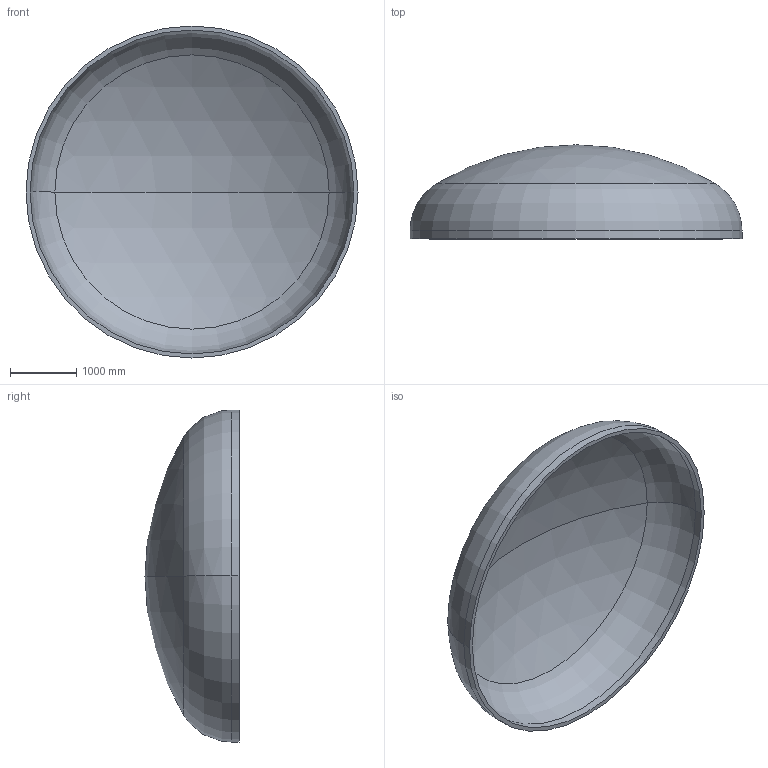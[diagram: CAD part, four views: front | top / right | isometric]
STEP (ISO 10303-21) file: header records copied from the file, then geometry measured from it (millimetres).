
FILE_DESCRIPTION (( 'STEP AP203' ), '1' );
FILE_NAME ('DIN 28013 Korbbogenform_-_Boden DIN 28013 - 5000 x 120 - I - s=62.step', '2016-07-02T00:40:21', ( '' ), ( '' ), 'SwSTEP 2.0', 'SolidWorks 2013', '' );
FILE_SCHEMA (( 'CONFIG_CONTROL_DESIGN' ));
Length unit declared in the file: millimetre
Products named in the file (1): DIN 28013 Korbbogenform_-_Boden DIN 28013 - 5000 x 120 - I - s=62
Bounding box: 5000 x 1416.01 x 5000 mm (x, y, z)
Volume: 1774040131 mm3; surface area: 58196948 mm2
Topology: 1 solids, 1 shells, 13 faces, 24 edges, 14 vertices
Faces by surface type: torus 4, cylinder 4, sphere 4, plane 1
Entity records: 407 total; most frequent: DIRECTION 72, CARTESIAN_POINT 52, ORIENTED_EDGE 48, AXIS2_PLACEMENT_3D 34, EDGE_CURVE 24, CIRCLE 20, VERTEX_POINT 14, EDGE_LOOP 14
